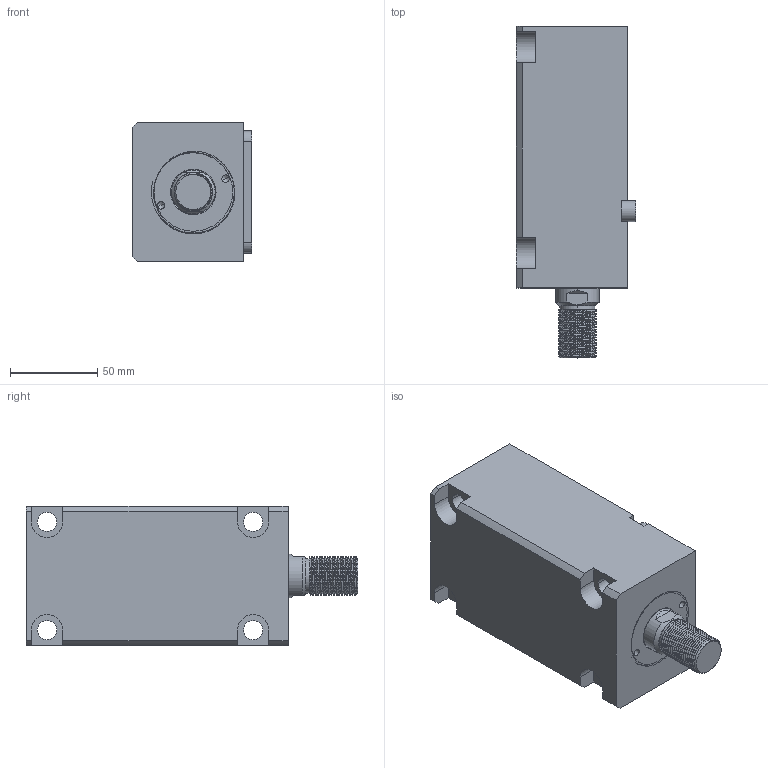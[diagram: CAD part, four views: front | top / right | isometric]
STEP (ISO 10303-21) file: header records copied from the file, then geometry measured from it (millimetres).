
FILE_DESCRIPTION (( 'STEP AP214' ), '1' );
FILE_NAME ('chtb-lam40x95w_asm.STEP', '2018-05-30T03:07:53', ( 'Windows' ), ( 'Microsoft' ), 'SwSTEP 2.0', 'SolidWorks 2015', '' );
FILE_SCHEMA (( 'AUTOMOTIVE_DESIGN' ));
Length unit declared in the file: millimetre
Products named in the file (5): CHTB-SD40X95WHSG; CHTB-SD40QG; CHTB-LAM40X95NBT; CHTB-LA40PJ; chtb-lam40x95w_asm
Assembly tree (4 placements, depth 2):
  chtb-lam40x95w_asm
    CHTB-LA40PJ
    CHTB-LAM40X95NBT
    CHTB-SD40QG
    CHTB-SD40X95WHSG
Bounding box: 68.5 x 190 x 80 mm (x, y, z)
Volume: 674533.9 mm3; surface area: 113675.8 mm2
Topology: 4 solids, 5 shells, 199 faces, 547 edges, 365 vertices
Faces by surface type: cylinder 111, plane 50, bspline 16, torus 12, cone 10
Entity records: 13609 total; most frequent: CARTESIAN_POINT 8674, ORIENTED_EDGE 1082, DIRECTION 894, EDGE_CURVE 541, VERTEX_POINT 365, AXIS2_PLACEMENT_3D 349, EDGE_LOOP 226, ADVANCED_FACE 199
